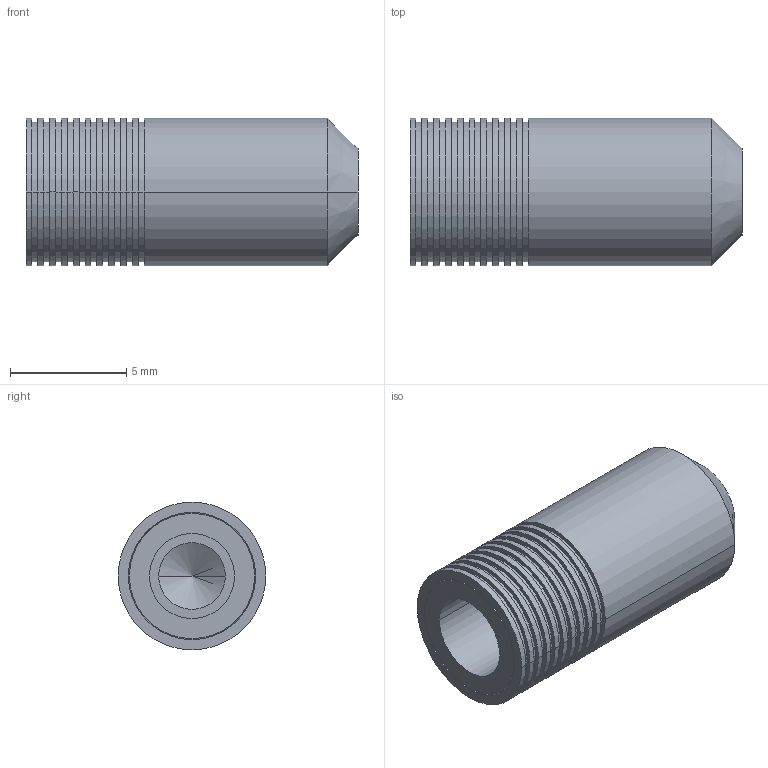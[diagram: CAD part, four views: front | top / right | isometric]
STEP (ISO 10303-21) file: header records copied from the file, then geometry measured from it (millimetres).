
FILE_DESCRIPTION(('CoCreate Modeling STEP Export'),'2;1');
FILE_NAME('PLRA2500010A.stp','2012-01-10T 9:57:16',(''),(''),'CoCreate Modeling STEP processor for AP214 (Solid Model)','CoCreate Modeling 17.0 01-Apr-2010 (C) Parametric Technology GmbH','');
FILE_SCHEMA(('AUTOMOTIVE_DESIGN { 1 0 10303 214 1 1 1 1 }'));
Length unit declared in the file: millimetre
Products named in the file (1): PLRA2500010A
Bounding box: 14.27 x 6.35 x 6.35 mm (x, y, z)
Volume: 323.3 mm3; surface area: 531.6 mm2
Topology: 1 solids, 1 shells, 78 faces, 206 edges, 151 vertices
Faces by surface type: cylinder 48, plane 24, cone 6
Entity records: 2569 total; most frequent: ORIENTED_EDGE 408, CARTESIAN_POINT 307, DIRECTION 258, EDGE_CURVE 204, VERTEX_POINT 151, AXIS2_PLACEMENT_3D 102, EDGE_LOOP 101, COLOUR_RGB 79
